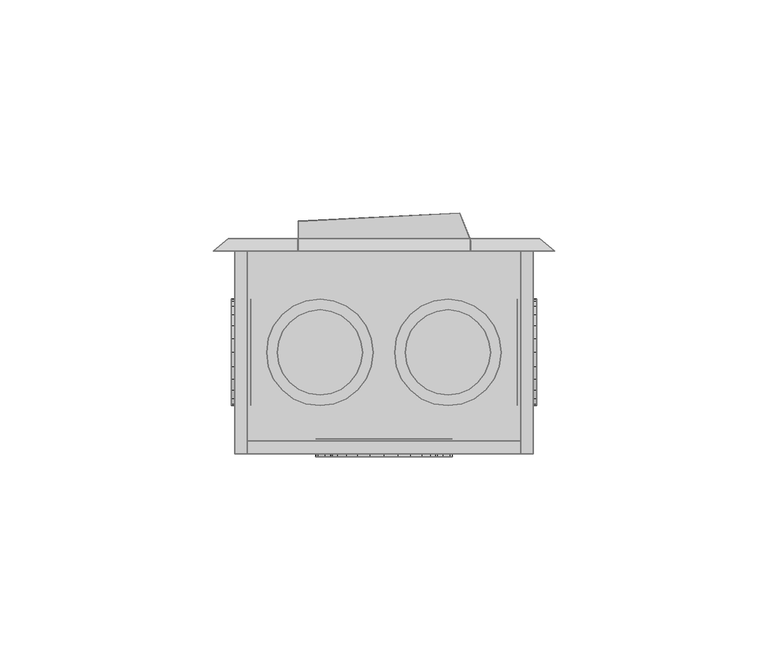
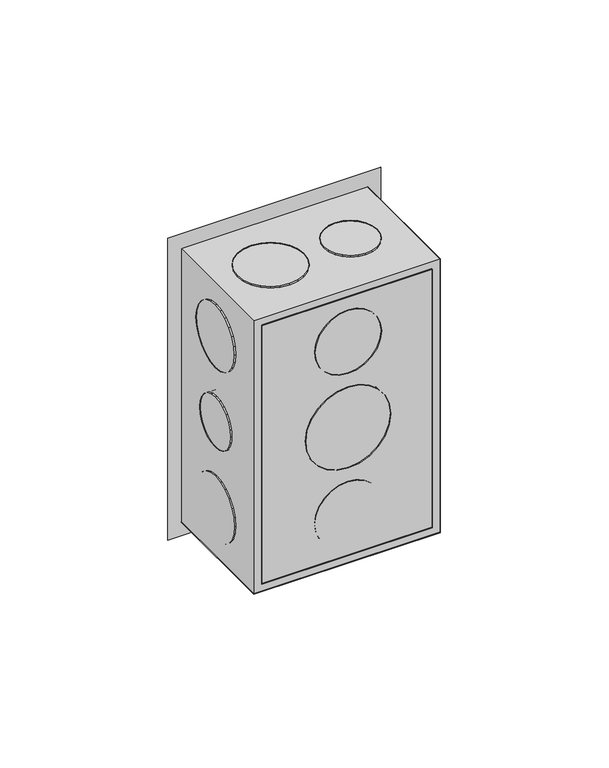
"""IFC4 building model written with IfcOpenShell, lengths in millimetres: proxy geometry,  210575 :  210575."""

from ifc_helpers import new_model, si_unit, origin, place, context, project, spatial, triangles, source, transform, mapped, element, save


def generic_models_0b062a14(model_context):
    return source(origin(), model_context, "Body", "Tessellation", [
        triangles([(15193.0005432, 15395.4998108, 1254.3000378), (15196.0003601, 15395.4998108, 1148.7000154), (15193.0005432, 15395.4998108, 1145.6999805), (15196.0003601, 15395.4998108, 1251.2999302), (15262.9997589, 15395.4998108, 1254.3000378), (15259.999942, 15395.4998108, 1251.2999302), (15262.9997589, 15395.4998108, 1145.6999805), (15259.999942, 15395.4998108, 1148.7000154), (15196.0003601, 15348.0003845, 1251.2999302), (15196.0003601, 15348.0003845, 1148.7000154), (15262.9997589, 15348.0003845, 1254.3000378), (15262.9997589, 15348.0003845, 1145.6999805), (15259.999942, 15348.0003845, 1251.2999302), (15193.0005432, 15348.0003845, 1145.6999805), (15259.999942, 15348.0003845, 1148.7000154), (15193.0005432, 15348.0003845, 1254.3000378), (15196.0003601, 15351.0002014, 1251.2999302), (15259.999942, 15351.0002014, 1148.7000154), (15196.0003601, 15351.0002014, 1148.7000154), (15259.999942, 15351.0002014, 1251.2999302), (15214.1004181, 15351.5001709, 1191.9999887), (15220.000058, 15351.5001709, 1186.0999855), (15216.7002594, 15351.5001709, 1188.6999722), (15212.5005157, 15351.5001709, 1195.8999687), (15223.799826, 15351.5001709, 1184.5000105), (15212.0005463, 15351.5001709, 1200.0000092), (15227.9995697, 15351.5001709, 1183.9999683), (15212.5005157, 15351.5001709, 1204.0999769), (15232.1004822, 15351.5001709, 1184.5000105), (15214.1004181, 15351.5001709, 1208.0000296), (15236.0002441, 15351.5001709, 1186.0999855), (15216.7002594, 15351.5001709, 1211.2999735), (15239.3000427, 15351.5001709, 1188.6999722), (15220.000058, 15351.5001709, 1213.9000328), (15241.7998901, 15351.5001709, 1191.9999887), (15223.799826, 15351.5001709, 1215.5000078), (15243.3997925, 15351.5001709, 1195.8999687), (15227.9995697, 15351.5001709, 1215.9999773), (15243.9997559, 15351.5001709, 1200.0000092), (15232.1004822, 15351.5001709, 1215.5000078), (15243.3997925, 15351.5001709, 1204.0999769), (15236.0002441, 15351.5001709, 1213.9000328), (15241.7998901, 15351.5001709, 1208.0000296), (15239.3000427, 15351.5001709, 1211.2999735), (15232.1004822, 15347.3004272, 1184.5000105), (15227.9995697, 15347.3004272, 1183.9999683), (15223.799826, 15347.3004272, 1184.5000105), (15220.000058, 15347.3004272, 1186.0999855), (15216.7002594, 15347.3004272, 1188.6999722), (15214.1004181, 15347.3004272, 1191.9999887), (15212.5005157, 15347.3004272, 1195.8999687), (15212.0005463, 15347.3004272, 1200.0000092), (15212.5005157, 15347.3004272, 1204.0999769), (15214.1004181, 15347.3004272, 1208.0000296), (15216.7002594, 15347.3004272, 1211.2999735), (15220.000058, 15347.3004272, 1213.9000328), (15223.799826, 15347.3004272, 1215.5000078), (15227.9995697, 15347.3004272, 1215.9999773), (15232.1004822, 15347.3004272, 1215.5000078), (15236.0002441, 15347.3004272, 1213.9000328), (15239.3000427, 15347.3004272, 1211.2999735), (15241.7998901, 15347.3004272, 1208.0000296), (15243.3997925, 15347.3004272, 1204.0999769), (15243.9997559, 15347.3004272, 1200.0000092), (15243.3997925, 15347.3004272, 1195.8999687), (15241.7998901, 15347.3004272, 1191.9999887), (15239.3000427, 15347.3004272, 1188.6999722), (15236.0002441, 15347.3004272, 1186.0999855), (15217.100235, 15351.5001709, 1227.8000565), (15221.6999542, 15351.5001709, 1223.2000465), (15219.1001129, 15351.5001709, 1225.2000698), (15215.9003082, 15351.5001709, 1230.8000187), (15224.6997711, 15351.5001709, 1221.8999805), (15215.5003326, 15351.5001709, 1233.9999687), (15227.9995697, 15351.5001709, 1221.500005), (15215.9003082, 15351.5001709, 1237.2000641), (15231.2005371, 15351.5001709, 1221.8999805), (15217.100235, 15351.5001709, 1240.3000202), (15234.200354, 15351.5001709, 1223.2000465), (15219.1001129, 15351.5001709, 1242.800013), (15236.8001953, 15351.5001709, 1225.2000698), (15238.8000732, 15351.5001709, 1227.8000565), (15221.6999542, 15351.5001709, 1244.8000362), (15224.6997711, 15351.5001709, 1246.0999569), (15240.0, 15351.5001709, 1230.8000187), (15227.9995697, 15351.5001709, 1246.4999325), (15240.4999695, 15351.5001709, 1233.9999687), (15231.2005371, 15351.5001709, 1246.0999569), (15240.0, 15351.5001709, 1237.2000641), (15238.8000732, 15351.5001709, 1240.3000202), (15234.200354, 15351.5001709, 1244.8000362), (15236.8001953, 15351.5001709, 1242.800013), (15240.0, 15347.3004272, 1230.8000187), (15238.8000732, 15347.3004272, 1227.8000565), (15236.8001953, 15347.3004272, 1225.2000698), (15234.200354, 15347.3004272, 1223.2000465), (15231.2005371, 15347.3004272, 1221.8999805), (15227.9995697, 15347.3004272, 1221.500005), (15224.6997711, 15347.3004272, 1221.8999805), (15221.6999542, 15347.3004272, 1223.2000465), (15219.1001129, 15347.3004272, 1225.2000698), (15217.100235, 15347.3004272, 1227.8000565), (15215.9003082, 15347.3004272, 1230.8000187), (15215.5003326, 15347.3004272, 1233.9999687), (15215.9003082, 15347.3004272, 1237.2000641), (15217.100235, 15347.3004272, 1240.3000202), (15219.1001129, 15347.3004272, 1242.800013), (15221.6999542, 15347.3004272, 1244.8000362), (15224.6997711, 15347.3004272, 1246.0999569), (15227.9995697, 15347.3004272, 1246.4999325), (15231.2005371, 15347.3004272, 1246.0999569), (15234.200354, 15347.3004272, 1244.8000362), (15236.8001953, 15347.3004272, 1242.800013), (15238.8000732, 15347.3004272, 1240.3000202), (15240.0, 15347.3004272, 1237.2000641), (15240.4999695, 15347.3004272, 1233.9999687), (15221.6999542, 15347.3004272, 1155.1999821), (15217.100235, 15347.3004272, 1159.6999981), (15219.1001129, 15347.3004272, 1157.2000053), (15224.6997711, 15347.3004272, 1153.8999887), (15215.9003082, 15347.3004272, 1162.8000269), (15227.9995697, 15347.3004272, 1153.5000132), (15215.5003326, 15347.3004272, 1165.9999769), (15231.2005371, 15347.3004272, 1153.8999887), (15215.9003082, 15347.3004272, 1169.1999996), (15234.200354, 15347.3004272, 1155.1999821), (15217.100235, 15347.3004272, 1172.2000345), (15236.8001953, 15347.3004272, 1157.2000053), (15219.1001129, 15347.3004272, 1174.8000212), (15238.8000732, 15347.3004272, 1159.6999981), (15221.6999542, 15347.3004272, 1176.7999718), (15240.0, 15347.3004272, 1162.8000269), (15224.6997711, 15347.3004272, 1178.0999651), (15227.9995697, 15347.3004272, 1178.5000134), (15240.4999695, 15347.3004272, 1165.9999769), (15240.0, 15347.3004272, 1169.1999996), (15231.2005371, 15347.3004272, 1178.0999651), (15238.8000732, 15347.3004272, 1172.2000345), (15234.200354, 15347.3004272, 1176.7999718), (15236.8001953, 15347.3004272, 1174.8000212), (15224.6997711, 15351.5001709, 1178.0999651), (15227.9995697, 15351.5001709, 1178.5000134), (15221.6999542, 15351.5001709, 1176.7999718), (15219.1001129, 15351.5001709, 1174.8000212), (15217.100235, 15351.5001709, 1172.2000345), (15215.9003082, 15351.5001709, 1169.1999996), (15215.5003326, 15351.5001709, 1165.9999769), (15215.9003082, 15351.5001709, 1162.8000269), (15217.100235, 15351.5001709, 1159.6999981), (15219.1001129, 15351.5001709, 1157.2000053), (15221.6999542, 15351.5001709, 1155.1999821), (15224.6997711, 15351.5001709, 1153.8999887), (15227.9995697, 15351.5001709, 1153.5000132), (15231.2005371, 15351.5001709, 1153.8999887), (15234.200354, 15351.5001709, 1155.1999821), (15236.8001953, 15351.5001709, 1157.2000053), (15238.8000732, 15351.5001709, 1159.6999981), (15240.0, 15351.5001709, 1162.8000269), (15240.4999695, 15351.5001709, 1165.9999769), (15240.0, 15351.5001709, 1169.1999996), (15238.8000732, 15351.5001709, 1172.2000345), (15236.8001953, 15351.5001709, 1174.8000212), (15234.200354, 15351.5001709, 1176.7999718), (15231.2005371, 15351.5001709, 1178.0999651), (15196.8003113, 15366.8003998, 1191.3000315), (15196.8003113, 15363.0994629, 1195.0000237), (15196.8003113, 15364.700528, 1192.9000065), (15196.8003113, 15362.0995239, 1197.4000225), (15196.8003113, 15369.2002533, 1190.3000198), (15196.8003113, 15361.7995422, 1200.0000092), (15196.8003113, 15371.8000946, 1189.9999655), (15196.8003113, 15374.299942, 1190.3000198), (15196.8003113, 15362.0995239, 1202.5999958), (15196.8003113, 15363.0994629, 1204.9999947), (15196.8003113, 15376.7997894, 1191.3000315), (15196.8003113, 15364.700528, 1207.1000118), (15196.8003113, 15378.7996674, 1192.9000065), (15196.8003113, 15380.3995697, 1195.0000237), (15196.8003113, 15366.8003998, 1208.6999868), (15196.8003113, 15381.3995087, 1197.4000225), (15196.8003113, 15369.2002533, 1209.6999985), (15196.8003113, 15381.7994843, 1200.0000092), (15196.8003113, 15371.8000946, 1209.9999802), (15196.8003113, 15381.3995087, 1202.5999958), (15196.8003113, 15374.299942, 1209.6999985), (15196.8003113, 15376.7997894, 1208.6999868), (15196.8003113, 15380.3995697, 1204.9999947), (15196.8003113, 15378.7996674, 1207.1000118), (15192.1994293, 15371.8000946, 1189.9999655), (15192.1994293, 15369.2002533, 1190.3000198), (15192.1994293, 15374.299942, 1190.3000198), (15192.1994293, 15376.7997894, 1191.3000315), (15192.1994293, 15378.7996674, 1192.9000065), (15192.1994293, 15380.3995697, 1195.0000237), (15192.1994293, 15381.3995087, 1197.4000225), (15192.1994293, 15381.7994843, 1200.0000092), (15192.1994293, 15381.3995087, 1202.5999958), (15192.1994293, 15380.3995697, 1204.9999947), (15192.1994293, 15378.7996674, 1207.1000118), (15192.1994293, 15376.7997894, 1208.6999868), (15192.1994293, 15374.299942, 1209.6999985), (15192.1994293, 15371.8000946, 1209.9999802), (15192.1994293, 15369.2002533, 1209.6999985), (15192.1994293, 15366.8003998, 1208.6999868), (15192.1994293, 15364.700528, 1207.1000118), (15192.1994293, 15363.0994629, 1204.9999947), (15192.1994293, 15362.0995239, 1202.5999958), (15192.1994293, 15361.7995422, 1200.0000092), (15192.1994293, 15362.0995239, 1197.4000225), (15192.1994293, 15363.0994629, 1195.0000237), (15192.1994293, 15364.700528, 1192.9000065), (15192.1994293, 15366.8003998, 1191.3000315), (15196.8003113, 15365.5004791, 1223.2000465), (15196.8003113, 15360.8995972, 1227.8000565), (15196.8003113, 15362.8994751, 1225.2000698), (15196.8003113, 15368.500296, 1221.8999805), (15196.8003113, 15359.6996704, 1230.8000187), (15196.8003113, 15359.2996948, 1233.9999687), (15196.8003113, 15371.8000946, 1221.500005), (15196.8003113, 15374.9998993, 1221.8999805), (15196.8003113, 15359.6996704, 1237.2000641), (15196.8003113, 15360.8995972, 1240.3000202), (15196.8003113, 15377.9997162, 1223.2000465), (15196.8003113, 15380.5995575, 1225.2000698), (15196.8003113, 15362.8994751, 1242.800013), (15196.8003113, 15382.5994354, 1227.8000565), (15196.8003113, 15365.5004791, 1244.8000362), (15196.8003113, 15383.8005249, 1230.8000187), (15196.8003113, 15368.500296, 1246.0999569), (15196.8003113, 15384.3004944, 1233.9999687), (15196.8003113, 15371.8000946, 1246.4999325), (15196.8003113, 15383.8005249, 1237.2000641), (15196.8003113, 15374.9998993, 1246.0999569), (15196.8003113, 15382.5994354, 1240.3000202), (15196.8003113, 15377.9997162, 1244.8000362), (15196.8003113, 15380.5995575, 1242.800013), (15192.1994293, 15371.8000946, 1221.500005), (15192.1994293, 15368.500296, 1221.8999805), (15192.1994293, 15374.9998993, 1221.8999805), (15192.1994293, 15377.9997162, 1223.2000465), (15192.1994293, 15380.5995575, 1225.2000698), (15192.1994293, 15382.5994354, 1227.8000565), (15192.1994293, 15383.8005249, 1230.8000187), (15192.1994293, 15384.3004944, 1233.9999687), (15192.1994293, 15383.8005249, 1237.2000641), (15192.1994293, 15382.5994354, 1240.3000202), (15192.1994293, 15380.5995575, 1242.800013), (15192.1994293, 15377.9997162, 1244.8000362), (15192.1994293, 15374.9998993, 1246.0999569), (15192.1994293, 15371.8000946, 1246.4999325), (15192.1994293, 15368.500296, 1246.0999569), (15192.1994293, 15365.5004791, 1244.8000362), (15192.1994293, 15362.8994751, 1242.800013), (15192.1994293, 15360.8995972, 1240.3000202), (15192.1994293, 15359.6996704, 1237.2000641), (15192.1994293, 15359.2996948, 1233.9999687), (15192.1994293, 15359.6996704, 1230.8000187), (15192.1994293, 15360.8995972, 1227.8000565), (15192.1994293, 15362.8994751, 1225.2000698), (15192.1994293, 15365.5004791, 1223.2000465), (15192.1994293, 15360.8995972, 1159.6999981), (15192.1994293, 15365.5004791, 1155.1999821), (15192.1994293, 15362.8994751, 1157.2000053), (15192.1994293, 15359.6996704, 1162.8000269), (15192.1994293, 15368.500296, 1153.8999887), (15192.1994293, 15359.2996948, 1165.9999769), (15192.1994293, 15371.8000946, 1153.5000132), (15192.1994293, 15359.6996704, 1169.1999996), (15192.1994293, 15374.9998993, 1153.8999887), (15192.1994293, 15360.8995972, 1172.2000345), (15192.1994293, 15377.9997162, 1155.1999821), (15192.1994293, 15362.8994751, 1174.8000212), (15192.1994293, 15380.5995575, 1157.2000053), (15192.1994293, 15365.5004791, 1176.7999718), (15192.1994293, 15382.5994354, 1159.6999981), (15192.1994293, 15368.500296, 1178.0999651), (15192.1994293, 15383.8005249, 1162.8000269), (15192.1994293, 15371.8000946, 1178.5000134), (15192.1994293, 15384.3004944, 1165.9999769), (15192.1994293, 15374.9998993, 1178.0999651), (15192.1994293, 15383.8005249, 1169.1999996), (15192.1994293, 15377.9997162, 1176.7999718), (15192.1994293, 15382.5994354, 1172.2000345), (15192.1994293, 15380.5995575, 1174.8000212), (15196.8003113, 15368.500296, 1178.0999651), (15196.8003113, 15371.8000946, 1178.5000134), (15196.8003113, 15374.9998993, 1178.0999651), (15196.8003113, 15377.9997162, 1176.7999718), (15196.8003113, 15380.5995575, 1174.8000212), (15196.8003113, 15382.5994354, 1172.2000345), (15196.8003113, 15383.8005249, 1169.1999996), (15196.8003113, 15384.3004944, 1165.9999769), (15196.8003113, 15383.8005249, 1162.8000269), (15196.8003113, 15382.5994354, 1159.6999981), (15196.8003113, 15380.5995575, 1157.2000053), (15196.8003113, 15377.9997162, 1155.1999821), (15196.8003113, 15374.9998993, 1153.8999887), (15196.8003113, 15371.8000946, 1153.5000132), (15196.8003113, 15368.500296, 1153.8999887), (15196.8003113, 15365.5004791, 1155.1999821), (15196.8003113, 15362.8994751, 1157.2000053), (15196.8003113, 15360.8995972, 1159.6999981), (15196.8003113, 15359.6996704, 1162.8000269), (15196.8003113, 15359.2996948, 1165.9999769), (15196.8003113, 15359.6996704, 1169.1999996), (15196.8003113, 15360.8995972, 1172.2000345), (15196.8003113, 15362.8994751, 1174.8000212), (15196.8003113, 15365.5004791, 1176.7999718), (15259.1999908, 15363.0994629, 1195.0000237), (15259.1999908, 15366.8003998, 1191.3000315), (15259.1999908, 15364.700528, 1192.9000065), (15259.1999908, 15362.0995239, 1197.4000225), (15259.1999908, 15369.2002533, 1190.3000198), (15259.1999908, 15361.7995422, 1200.0000092), (15259.1999908, 15371.8000946, 1189.9999655), (15259.1999908, 15362.0995239, 1202.5999958), (15259.1999908, 15374.299942, 1190.3000198), (15259.1999908, 15363.0994629, 1204.9999947), (15259.1999908, 15376.7997894, 1191.3000315), (15259.1999908, 15364.700528, 1207.1000118), (15259.1999908, 15378.7996674, 1192.9000065), (15259.1999908, 15366.8003998, 1208.6999868), (15259.1999908, 15380.3995697, 1195.0000237), (15259.1999908, 15369.2002533, 1209.6999985), (15259.1999908, 15381.3995087, 1197.4000225), (15259.1999908, 15381.7994843, 1200.0000092), (15259.1999908, 15371.8000946, 1209.9999802), (15259.1999908, 15374.299942, 1209.6999985), (15259.1999908, 15381.3995087, 1202.5999958), (15259.1999908, 15376.7997894, 1208.6999868), (15259.1999908, 15380.3995697, 1204.9999947), (15259.1999908, 15378.7996674, 1207.1000118), (15263.7997101, 15369.2002533, 1209.6999985), (15263.7997101, 15371.8000946, 1209.9999802), (15263.7997101, 15374.299942, 1209.6999985), (15263.7997101, 15376.7997894, 1208.6999868), (15263.7997101, 15378.7996674, 1207.1000118), (15263.7997101, 15380.3995697, 1204.9999947), (15263.7997101, 15381.3995087, 1202.5999958), (15263.7997101, 15381.7994843, 1200.0000092), (15263.7997101, 15381.3995087, 1197.4000225), (15263.7997101, 15380.3995697, 1195.0000237), (15263.7997101, 15378.7996674, 1192.9000065), (15263.7997101, 15376.7997894, 1191.3000315), (15263.7997101, 15374.299942, 1190.3000198), (15263.7997101, 15371.8000946, 1189.9999655), (15263.7997101, 15369.2002533, 1190.3000198), (15263.7997101, 15366.8003998, 1191.3000315), (15263.7997101, 15364.700528, 1192.9000065), (15263.7997101, 15363.0994629, 1195.0000237), (15263.7997101, 15362.0995239, 1197.4000225), (15263.7997101, 15361.7995422, 1200.0000092), (15263.7997101, 15362.0995239, 1202.5999958), (15263.7997101, 15363.0994629, 1204.9999947), (15263.7997101, 15364.700528, 1207.1000118), (15263.7997101, 15366.8003998, 1208.6999868), (15259.1999908, 15360.8995972, 1159.6999981), (15259.1999908, 15365.5004791, 1155.1999821), (15259.1999908, 15362.8994751, 1157.2000053), (15259.1999908, 15359.6996704, 1162.8000269), (15259.1999908, 15368.500296, 1153.8999887), (15259.1999908, 15359.2996948, 1165.9999769), (15259.1999908, 15371.8000946, 1153.5000132), (15259.1999908, 15359.6996704, 1169.1999996), (15259.1999908, 15374.9998993, 1153.8999887), (15259.1999908, 15360.8995972, 1172.2000345), (15259.1999908, 15377.9997162, 1155.1999821), (15259.1999908, 15362.8994751, 1174.8000212), (15259.1999908, 15380.5995575, 1157.2000053), (15259.1999908, 15365.5004791, 1176.7999718), (15259.1999908, 15382.5994354, 1159.6999981), (15259.1999908, 15368.500296, 1178.0999651), (15259.1999908, 15383.8005249, 1162.8000269), (15259.1999908, 15371.8000946, 1178.5000134), (15259.1999908, 15384.3004944, 1165.9999769), (15259.1999908, 15374.9998993, 1178.0999651), (15259.1999908, 15383.8005249, 1169.1999996), (15259.1999908, 15377.9997162, 1176.7999718), (15259.1999908, 15382.5994354, 1172.2000345), (15259.1999908, 15380.5995575, 1174.8000212), (15263.7997101, 15368.500296, 1178.0999651), (15263.7997101, 15371.8000946, 1178.5000134), (15263.7997101, 15374.9998993, 1178.0999651), (15263.7997101, 15377.9997162, 1176.7999718), (15263.7997101, 15380.5995575, 1174.8000212), (15263.7997101, 15382.5994354, 1172.2000345), (15263.7997101, 15383.8005249, 1169.1999996), (15263.7997101, 15384.3004944, 1165.9999769), (15263.7997101, 15383.8005249, 1162.8000269), (15263.7997101, 15382.5994354, 1159.6999981), (15263.7997101, 15380.5995575, 1157.2000053), (15263.7997101, 15377.9997162, 1155.1999821), (15263.7997101, 15374.9998993, 1153.8999887), (15263.7997101, 15371.8000946, 1153.5000132), (15263.7997101, 15368.500296, 1153.8999887), (15263.7997101, 15365.5004791, 1155.1999821), (15263.7997101, 15362.8994751, 1157.2000053), (15263.7997101, 15360.8995972, 1159.6999981), (15263.7997101, 15359.6996704, 1162.8000269), (15263.7997101, 15359.2996948, 1165.9999769), (15263.7997101, 15359.6996704, 1169.1999996), (15263.7997101, 15360.8995972, 1172.2000345), (15263.7997101, 15362.8994751, 1174.8000212), (15263.7997101, 15365.5004791, 1176.7999718), (15263.7997101, 15365.5004791, 1223.2000465), (15263.7997101, 15360.8995972, 1227.8000565), (15263.7997101, 15362.8994751, 1225.2000698), (15263.7997101, 15368.500296, 1221.8999805), (15263.7997101, 15359.6996704, 1230.8000187), (15263.7997101, 15359.2996948, 1233.9999687), (15263.7997101, 15371.8000946, 1221.500005), (15263.7997101, 15374.9998993, 1221.8999805), (15263.7997101, 15359.6996704, 1237.2000641), (15263.7997101, 15360.8995972, 1240.3000202), (15263.7997101, 15377.9997162, 1223.2000465), (15263.7997101, 15380.5995575, 1225.2000698), (15263.7997101, 15362.8994751, 1242.800013), (15263.7997101, 15382.5994354, 1227.8000565), (15263.7997101, 15365.5004791, 1244.8000362), (15263.7997101, 15383.8005249, 1230.8000187), (15263.7997101, 15368.500296, 1246.0999569), (15263.7997101, 15384.3004944, 1233.9999687), (15263.7997101, 15371.8000946, 1246.4999325), (15263.7997101, 15383.8005249, 1237.2000641), (15263.7997101, 15374.9998993, 1246.0999569), (15263.7997101, 15382.5994354, 1240.3000202), (15263.7997101, 15377.9997162, 1244.8000362), (15263.7997101, 15380.5995575, 1242.800013), (15259.1999908, 15371.8000946, 1221.500005), (15259.1999908, 15368.500296, 1221.8999805), (15259.1999908, 15374.9998993, 1221.8999805), (15259.1999908, 15377.9997162, 1223.2000465), (15259.1999908, 15380.5995575, 1225.2000698), (15259.1999908, 15382.5994354, 1227.8000565), (15259.1999908, 15383.8005249, 1230.8000187), (15259.1999908, 15384.3004944, 1233.9999687), (15259.1999908, 15383.8005249, 1237.2000641), (15259.1999908, 15382.5994354, 1240.3000202), (15259.1999908, 15380.5995575, 1242.800013), (15259.1999908, 15377.9997162, 1244.8000362), (15259.1999908, 15374.9998993, 1246.0999569), (15259.1999908, 15371.8000946, 1246.4999325), (15259.1999908, 15368.500296, 1246.0999569), (15259.1999908, 15365.5004791, 1244.8000362), (15259.1999908, 15362.8994751, 1242.800013), (15259.1999908, 15360.8995972, 1240.3000202), (15259.1999908, 15359.6996704, 1237.2000641), (15259.1999908, 15359.2996948, 1233.9999687), (15259.1999908, 15359.6996704, 1230.8000187), (15259.1999908, 15360.8995972, 1227.8000565), (15259.1999908, 15362.8994751, 1225.2000698), (15259.1999908, 15365.5004791, 1223.2000465), (15202.0999878, 15365.5004791, 1250.9999485), (15206.699707, 15360.8995972, 1250.9999485), (15204.0998657, 15362.8994751, 1250.9999485), (15200.900061, 15368.500296, 1250.9999485), (15209.6995239, 15359.6996704, 1250.9999485), (15213.0004852, 15359.2996948, 1250.9999485), (15200.5000854, 15371.8000946, 1250.9999485), (15200.900061, 15374.9998993, 1250.9999485), (15216.2002899, 15359.6996704, 1250.9999485), (15219.2001068, 15360.8995972, 1250.9999485), (15202.0999878, 15377.9997162, 1250.9999485), (15204.0998657, 15380.5995575, 1250.9999485), (15221.7999481, 15362.8994751, 1250.9999485), (15223.799826, 15365.5004791, 1250.9999485), (15206.699707, 15382.5994354, 1250.9999485), (15209.6995239, 15383.8005249, 1250.9999485), (15224.9997528, 15368.500296, 1250.9999485), (15213.0004852, 15384.3004944, 1250.9999485), (15225.4997223, 15371.8000946, 1250.9999485), (15216.2002899, 15383.8005249, 1250.9999485), (15224.9997528, 15374.9998993, 1250.9999485), (15223.799826, 15377.9997162, 1250.9999485), (15219.2001068, 15382.5994354, 1250.9999485), (15221.7999481, 15380.5995575, 1250.9999485), (15213.0004852, 15359.2996948, 1255.1999828), (15216.2002899, 15359.6996704, 1255.1999828), (15209.6995239, 15359.6996704, 1255.1999828), (15206.699707, 15360.8995972, 1255.1999828), (15204.0998657, 15362.8994751, 1255.1999828), (15202.0999878, 15365.5004791, 1255.1999828), (15200.900061, 15368.500296, 1255.1999828), (15200.5000854, 15371.8000946, 1255.1999828), (15200.900061, 15374.9998993, 1255.1999828), (15202.0999878, 15377.9997162, 1255.1999828), (15204.0998657, 15380.5995575, 1255.1999828), (15206.699707, 15382.5994354, 1255.1999828), (15209.6995239, 15383.8005249, 1255.1999828), (15213.0004852, 15384.3004944, 1255.1999828), (15216.2002899, 15383.8005249, 1255.1999828), (15219.2001068, 15382.5994354, 1255.1999828), (15221.7999481, 15380.5995575, 1255.1999828), (15223.799826, 15377.9997162, 1255.1999828), (15224.9997528, 15374.9998993, 1255.1999828), (15225.4997223, 15371.8000946, 1255.1999828), (15224.9997528, 15368.500296, 1255.1999828), (15223.799826, 15365.5004791, 1255.1999828), (15221.7999481, 15362.8994751, 1255.1999828), (15219.2001068, 15360.8995972, 1255.1999828), (15234.3003479, 15366.8003998, 1250.9999485), (15238.0001221, 15363.0994629, 1250.9999485), (15235.9002502, 15364.700528, 1250.9999485), (15240.3999756, 15362.0995239, 1250.9999485), (15233.3004089, 15369.2002533, 1250.9999485), (15242.9998169, 15361.7995422, 1250.9999485), (15233.0004272, 15371.8000946, 1250.9999485), (15233.3004089, 15374.299942, 1250.9999485), (15245.5996582, 15362.0995239, 1250.9999485), (15247.9995117, 15363.0994629, 1250.9999485), (15234.3003479, 15376.7997894, 1250.9999485), (15250.0005524, 15364.700528, 1250.9999485), (15235.9002502, 15378.7996674, 1250.9999485), (15238.0001221, 15380.3995697, 1250.9999485), (15251.6004547, 15366.8003998, 1250.9999485), (15252.6003937, 15369.2002533, 1250.9999485), (15240.3999756, 15381.3995087, 1250.9999485), (15242.9998169, 15381.7994843, 1250.9999485), (15253.0003693, 15371.8000946, 1250.9999485), (15245.5996582, 15381.3995087, 1250.9999485), (15252.6003937, 15374.299942, 1250.9999485), (15247.9995117, 15380.3995697, 1250.9999485), (15251.6004547, 15376.7997894, 1250.9999485), (15250.0005524, 15378.7996674, 1250.9999485), (15245.5996582, 15362.0995239, 1255.1999828), (15247.9995117, 15363.0994629, 1255.1999828), (15242.9998169, 15361.7995422, 1255.1999828), (15240.3999756, 15362.0995239, 1255.1999828), (15238.0001221, 15363.0994629, 1255.1999828), (15235.9002502, 15364.700528, 1255.1999828), (15234.3003479, 15366.8003998, 1255.1999828), (15233.3004089, 15369.2002533, 1255.1999828), (15233.0004272, 15371.8000946, 1255.1999828), (15233.3004089, 15374.299942, 1255.1999828), (15234.3003479, 15376.7997894, 1255.1999828), (15235.9002502, 15378.7996674, 1255.1999828), (15238.0001221, 15380.3995697, 1255.1999828), (15240.3999756, 15381.3995087, 1255.1999828), (15242.9998169, 15381.7994843, 1255.1999828), (15245.5996582, 15381.3995087, 1255.1999828), (15247.9995117, 15380.3995697, 1255.1999828), (15250.0005524, 15378.7996674, 1255.1999828), (15251.6004547, 15376.7997894, 1255.1999828), (15252.6003937, 15374.299942, 1255.1999828), (15253.0003693, 15371.8000946, 1255.1999828), (15252.6003937, 15369.2002533, 1255.1999828), (15251.6004547, 15366.8003998, 1255.1999828), (15250.0005524, 15364.700528, 1255.1999828), (15204.2998535, 15366.8003998, 1144.8000355), (15207.9996277, 15363.0994629, 1144.8000355), (15205.8997559, 15364.700528, 1144.8000355), (15210.3994812, 15362.0995239, 1144.8000355), (15203.2999146, 15369.2002533, 1144.8000355), (15213.0004852, 15361.7995422, 1144.8000355), (15202.9999329, 15371.8000946, 1144.8000355), (15203.2999146, 15374.299942, 1144.8000355), (15215.6003265, 15362.0995239, 1144.8000355), (15218.0001801, 15363.0994629, 1144.8000355), (15204.2998535, 15376.7997894, 1144.8000355), (15220.000058, 15364.700528, 1144.8000355), (15205.8997559, 15378.7996674, 1144.8000355), (15207.9996277, 15380.3995697, 1144.8000355), (15221.5999603, 15366.8003998, 1144.8000355), (15222.5998993, 15369.2002533, 1144.8000355), (15210.3994812, 15381.3995087, 1144.8000355), (15213.0004852, 15381.7994843, 1144.8000355), (15222.9998749, 15371.8000946, 1144.8000355), (15215.6003265, 15381.3995087, 1144.8000355), (15222.5998993, 15374.299942, 1144.8000355), (15218.0001801, 15380.3995697, 1144.8000355), (15221.5999603, 15376.7997894, 1144.8000355), (15220.000058, 15378.7996674, 1144.8000355), (15210.3994812, 15362.0995239, 1149.099991), (15213.0004852, 15361.7995422, 1149.099991), (15207.9996277, 15363.0994629, 1149.099991), (15205.8997559, 15364.700528, 1149.099991), (15204.2998535, 15366.8003998, 1149.099991), (15203.2999146, 15369.2002533, 1149.099991), (15202.9999329, 15371.8000946, 1149.099991), (15203.2999146, 15374.299942, 1149.099991), (15204.2998535, 15376.7997894, 1149.099991), (15205.8997559, 15378.7996674, 1149.099991), (15207.9996277, 15380.3995697, 1149.099991), (15210.3994812, 15381.3995087, 1149.099991), (15213.0004852, 15381.7994843, 1149.099991), (15215.6003265, 15381.3995087, 1149.099991), (15218.0001801, 15380.3995697, 1149.099991), (15220.000058, 15378.7996674, 1149.099991), (15221.5999603, 15376.7997894, 1149.099991), (15222.5998993, 15374.299942, 1149.099991), (15222.9998749, 15371.8000946, 1149.099991), (15222.5998993, 15369.2002533, 1149.099991), (15221.5999603, 15366.8003998, 1149.099991), (15220.000058, 15364.700528, 1149.099991), (15218.0001801, 15363.0994629, 1149.099991), (15215.6003265, 15362.0995239, 1149.099991), (15232.1004822, 15365.5004791, 1144.8000355), (15236.7002014, 15360.8995972, 1144.8000355), (15234.1003601, 15362.8994751, 1144.8000355), (15230.9005554, 15368.500296, 1144.8000355), (15239.7000183, 15359.6996704, 1144.8000355), (15242.9998169, 15359.2996948, 1144.8000355), (15230.5005798, 15371.8000946, 1144.8000355), (15230.9005554, 15374.9998993, 1144.8000355), (15246.1996216, 15359.6996704, 1144.8000355), (15249.1994385, 15360.8995972, 1144.8000355), (15232.1004822, 15377.9997162, 1144.8000355), (15234.1003601, 15380.5995575, 1144.8000355), (15251.8004425, 15362.8994751, 1144.8000355), (15253.8003204, 15365.5004791, 1144.8000355), (15236.7002014, 15382.5994354, 1144.8000355), (15239.7000183, 15383.8005249, 1144.8000355), (15255.0002472, 15368.500296, 1144.8000355), (15242.9998169, 15384.3004944, 1144.8000355), (15255.5002167, 15371.8000946, 1144.8000355), (15246.1996216, 15383.8005249, 1144.8000355), (15255.0002472, 15374.9998993, 1144.8000355), (15253.8003204, 15377.9997162, 1144.8000355), (15249.1994385, 15382.5994354, 1144.8000355), (15251.8004425, 15380.5995575, 1144.8000355), (15246.1996216, 15359.6996704, 1149.099991), (15249.1994385, 15360.8995972, 1149.099991), (15242.9998169, 15359.2996948, 1149.099991), (15239.7000183, 15359.6996704, 1149.099991), (15236.7002014, 15360.8995972, 1149.099991), (15234.1003601, 15362.8994751, 1149.099991), (15232.1004822, 15365.5004791, 1149.099991), (15230.9005554, 15368.500296, 1149.099991), (15230.5005798, 15371.8000946, 1149.099991), (15230.9005554, 15374.9998993, 1149.099991), (15232.1004822, 15377.9997162, 1149.099991), (15234.1003601, 15380.5995575, 1149.099991), (15236.7002014, 15382.5994354, 1149.099991), (15239.7000183, 15383.8005249, 1149.099991), (15242.9998169, 15384.3004944, 1149.099991), (15246.1996216, 15383.8005249, 1149.099991), (15249.1994385, 15382.5994354, 1149.099991), (15251.8004425, 15380.5995575, 1149.099991), (15253.8003204, 15377.9997162, 1149.099991), (15255.0002472, 15374.9998993, 1149.099991), (15255.5002167, 15371.8000946, 1149.099991), (15255.0002472, 15368.500296, 1149.099991), (15253.8003204, 15365.5004791, 1149.099991), (15251.8004425, 15362.8994751, 1149.099991), (15267.9994537, 15395.4998108, 1139.9999651), (15207.7996399, 15395.4998108, 1188.2999966), (15187.9996857, 15395.4998108, 1139.9999651), (15248.1994995, 15395.4998108, 1188.2999966), (15267.9994537, 15395.4998108, 1259.9999805), (15248.1994995, 15395.4998108, 1211.7000217), (15187.9996857, 15395.4998108, 1259.9999805), (15207.7996399, 15395.4998108, 1211.7000217), (15248.1994995, 15398.4996277, 1188.2999966), (15248.1994995, 15398.4996277, 1211.7000217), (15207.7996399, 15398.4996277, 1188.2999966), (15207.7996399, 15398.4996277, 1211.7000217), (15191.499472, 15398.4996277, 1143.4999695), (15191.499472, 15398.4996277, 1256.5000488), (15264.4996674, 15398.4996277, 1143.4999695), (15264.4996674, 15398.4996277, 1256.5000488), (15207.8996338, 15402.5005463, 1188.1000088), (15248.2994934, 15395.4998108, 1188.1000088), (15207.8996338, 15395.4998108, 1188.1000088), (15245.6996521, 15404.4004303, 1188.1000088), (15248.2994934, 15397.9996582, 1188.1000088), (15207.8996338, 15395.4998108, 1211.500034), (15248.2994934, 15395.4998108, 1211.500034), (15207.8996338, 15402.5005463, 1211.500034), (15245.6996521, 15404.4004303, 1211.500034), (15248.2994934, 15397.9996582, 1211.500034)], [[1, 2, 3], [2, 1, 4], [5, 4, 1], [4, 5, 6], [3, 2, 7], [7, 2, 8], [7, 8, 6], [7, 6, 5], [2, 9, 10], [9, 2, 4], [7, 11, 12], [11, 7, 5], [4, 13, 9], [13, 4, 6], [3, 12, 14], [12, 3, 7], [13, 8, 15], [8, 13, 6], [16, 3, 14], [3, 16, 1], [15, 2, 10], [2, 15, 8], [11, 1, 16], [1, 11, 5], [12, 10, 14], [10, 12, 15], [11, 15, 12], [15, 11, 13], [14, 10, 16], [16, 10, 9], [16, 9, 13], [16, 13, 11], [17, 18, 19], [18, 17, 20], [18, 13, 15], [13, 18, 20], [19, 15, 10], [15, 19, 18], [9, 19, 10], [19, 9, 17], [13, 17, 9], [17, 13, 20], [15, 9, 10], [9, 15, 13], [21, 22, 23], [22, 21, 24], [25, 22, 24], [25, 24, 26], [27, 25, 26], [27, 26, 28], [29, 27, 28], [29, 28, 30], [31, 29, 30], [31, 30, 32], [31, 32, 33], [33, 32, 34], [33, 34, 35], [35, 34, 36], [35, 36, 37], [37, 36, 38], [37, 38, 39], [39, 38, 40], [39, 40, 41], [41, 40, 42], [41, 42, 43], [43, 42, 44], [27, 45, 46], [45, 27, 29], [25, 46, 47], [46, 25, 27], [22, 47, 48], [47, 22, 25], [23, 48, 49], [48, 23, 22], [50, 23, 49], [23, 50, 21], [51, 21, 50], [21, 51, 24], [52, 24, 51], [24, 52, 26], [53, 26, 52], [26, 53, 28], [54, 28, 53], [28, 54, 30], [55, 30, 54], [30, 55, 32], [56, 32, 55], [32, 56, 34], [57, 34, 56], [34, 57, 36], [58, 36, 57], [36, 58, 38], [59, 38, 58], [38, 59, 40], [60, 40, 59], [40, 60, 42], [61, 42, 60], [42, 61, 44], [43, 61, 62], [61, 43, 44], [41, 62, 63], [62, 41, 43], [39, 63, 64], [63, 39, 41], [37, 64, 65], [64, 37, 39], [35, 65, 66], [65, 35, 37], [33, 66, 67], [66, 33, 35], [31, 67, 68], [67, 31, 33], [29, 68, 45], [68, 29, 31], [48, 50, 49], [50, 48, 47], [51, 50, 47], [51, 47, 46], [52, 51, 46], [52, 46, 45], [53, 52, 45], [53, 45, 68], [54, 53, 68], [54, 68, 67], [54, 67, 55], [55, 67, 66], [55, 66, 56], [56, 66, 65], [56, 65, 57], [57, 65, 64], [57, 64, 58], [58, 64, 63], [58, 63, 59], [59, 63, 62], [59, 62, 60], [60, 62, 61], [69, 70, 71], [70, 69, 72], [73, 70, 72], [73, 72, 74], [75, 73, 74], [75, 74, 76], [77, 75, 76], [77, 76, 78], [79, 77, 78], [79, 78, 80], [81, 79, 80], [81, 80, 82], [82, 80, 83], [82, 83, 84], [82, 84, 85], [85, 84, 86], [85, 86, 87], [87, 86, 88], [87, 88, 89], [89, 88, 90], [90, 88, 91], [90, 91, 92], [82, 93, 94], [93, 82, 85], [81, 94, 95], [94, 81, 82], [79, 95, 96], [95, 79, 81], [77, 96, 97], [96, 77, 79], [75, 97, 98], [97, 75, 77], [73, 98, 99], [98, 73, 75], [70, 99, 100], [99, 70, 73], [71, 100, 101], [100, 71, 70], [102, 71, 101], [71, 102, 69], [103, 69, 102], [69, 103, 72], [104, 72, 103], [72, 104, 74], [105, 74, 104], [74, 105, 76], [106, 76, 105], [76, 106, 78], [107, 78, 106], [78, 107, 80], [108, 80, 107], [80, 108, 83], [109, 83, 108], [83, 109, 84], [110, 84, 109], [84, 110, 86], [111, 86, 110], [86, 111, 88], [112, 88, 111], [88, 112, 91], [113, 91, 112], [91, 113, 92], [90, 113, 114], [113, 90, 92], [89, 114, 115], [114, 89, 90], [87, 115, 116], [115, 87, 89], [85, 116, 93], [116, 85, 87], [100, 102, 101], [102, 100, 99], [103, 102, 99], [103, 99, 98], [104, 103, 98], [104, 98, 97], [105, 104, 97], [106, 105, 97], [106, 97, 96], [106, 96, 95], [106, 95, 107], [107, 95, 94], [107, 94, 108], [108, 94, 93], [108, 93, 109], [109, 93, 116], [109, 116, 110], [110, 116, 115], [110, 115, 111], [111, 115, 114], [111, 114, 112], [112, 114, 113], [117, 118, 119], [118, 117, 120], [121, 118, 120], [121, 120, 122], [123, 121, 122], [123, 122, 124], [125, 123, 124], [125, 124, 126], [127, 125, 126], [127, 126, 128], [127, 128, 129], [129, 128, 130], [129, 130, 131], [131, 130, 132], [131, 132, 133], [133, 132, 134], [134, 132, 135], [134, 135, 136], [134, 136, 137], [137, 136, 138], [137, 138, 139], [139, 138, 140], [134, 141, 133], [141, 134, 142], [133, 143, 131], [143, 133, 141], [131, 144, 129], [144, 131, 143], [129, 145, 127], [145, 129, 144], [127, 146, 125], [146, 127, 145], [125, 147, 123], [147, 125, 146], [123, 148, 121], [148, 123, 147], [121, 149, 118], [149, 121, 148], [118, 150, 119], [150, 118, 149], [150, 117, 119], [117, 150, 151], [151, 120, 117], [120, 151, 152], [152, 122, 120], [122, 152, 153], [153, 124, 122], [124, 153, 154], [154, 126, 124], [126, 154, 155], [155, 128, 126], [128, 155, 156], [156, 130, 128], [130, 156, 157], [157, 132, 130], [132, 157, 158], [158, 135, 132], [135, 158, 159], [159, 136, 135], [136, 159, 160], [160, 138, 136], [138, 160, 161], [161, 140, 138], [140, 161, 162], [140, 163, 139], [163, 140, 162], [139, 164, 137], [164, 139, 163], [137, 142, 134], [142, 137, 164], [149, 151, 150], [151, 149, 148], [152, 151, 148], [153, 152, 148], [153, 148, 147], [153, 147, 146], [154, 153, 146], [154, 146, 145], [155, 154, 145], [155, 145, 144], [156, 155, 144], [156, 144, 157], [157, 144, 143], [157, 143, 141], [157, 141, 158], [158, 141, 142], [158, 142, 159], [159, 142, 164], [159, 164, 160], [160, 164, 163], [160, 163, 161], [161, 163, 162], [165, 166, 167], [168, 166, 165], [168, 165, 169], [170, 168, 169], [170, 169, 171], [170, 171, 172], [173, 170, 172], [174, 173, 172], [174, 172, 175], [176, 174, 175], [176, 175, 177], [176, 177, 178], [176, 178, 179], [179, 178, 180], [179, 180, 181], [181, 180, 182], [181, 182, 183], [183, 182, 184], [183, 184, 185], [185, 184, 186], [186, 184, 187], [186, 187, 188], [189, 169, 190], [169, 189, 171], [191, 171, 189], [171, 191, 172], [192, 172, 191], [172, 192, 175], [193, 175, 192], [175, 193, 177], [194, 177, 193], [177, 194, 178], [195, 178, 194], [178, 195, 180], [196, 180, 195], [180, 196, 182], [197, 182, 196], [182, 197, 184], [198, 184, 197], [184, 198, 187], [199, 187, 198], [187, 199, 188], [186, 199, 200], [199, 186, 188], [185, 200, 201], [200, 185, 186], [183, 201, 202], [201, 183, 185], [181, 202, 203], [202, 181, 183], [179, 203, 204], [203, 179, 181], [176, 204, 205], [204, 176, 179], [174, 205, 206], [205, 174, 176], [173, 206, 207], [206, 173, 174], [170, 207, 208], [207, 170, 173], [168, 208, 209], [208, 168, 170], [166, 209, 210], [209, 166, 168], [167, 210, 211], [210, 167, 166], [212, 167, 211], [167, 212, 165], [190, 165, 212], [165, 190, 169], [210, 212, 211], [212, 210, 209], [190, 212, 209], [190, 209, 208], [189, 190, 208], [189, 208, 207], [191, 189, 207], [191, 207, 206], [192, 191, 206], [192, 206, 205], [192, 205, 193], [193, 205, 204], [193, 204, 194], [194, 204, 203], [194, 203, 195], [195, 203, 196], [196, 203, 202], [196, 202, 201], [196, 201, 197], [197, 201, 200], [197, 200, 198], [198, 200, 199], [213, 214, 215], [214, 213, 216], [217, 214, 216], [218, 217, 216], [218, 216, 219], [218, 219, 220], [221, 218, 220], [222, 221, 220], [222, 220, 223], [222, 223, 224], [222, 224, 225], [225, 224, 226], [225, 226, 227], [227, 226, 228], [227, 228, 229], [229, 228, 230], [229, 230, 231], [231, 230, 232], [231, 232, 233], [233, 232, 234], [233, 234, 235], [235, 234, 236], [237, 216, 238], [216, 237, 219], [239, 219, 237], [219, 239, 220], [240, 220, 239], [220, 240, 223], [241, 223, 240], [223, 241, 224], [242, 224, 241], [224, 242, 226], [243, 226, 242], [226, 243, 228], [244, 228, 243], [228, 244, 230], [245, 230, 244], [230, 245, 232], [246, 232, 245], [232, 246, 234], [247, 234, 246], [234, 247, 236], [235, 247, 248], [247, 235, 236], [233, 248, 249], [248, 233, 235], [231, 249, 250], [249, 231, 233], [229, 250, 251], [250, 229, 231], [227, 251, 252], [251, 227, 229], [225, 252, 253], [252, 225, 227], [222, 253, 254], [253, 222, 225], [221, 254, 255], [254, 221, 222], [218, 255, 256], [255, 218, 221], [217, 256, 257], [256, 217, 218], [214, 257, 258], [257, 214, 217], [215, 258, 259], [258, 215, 214], [260, 215, 259], [215, 260, 213], [238, 213, 260], [213, 238, 216], [258, 260, 259], [260, 258, 257], [238, 260, 257], [238, 257, 256], [237, 238, 256], [237, 256, 255], [239, 237, 255], [239, 255, 254], [240, 239, 254], [240, 254, 253], [241, 240, 253], [241, 253, 252], [241, 252, 242], [242, 252, 251], [242, 251, 243], [243, 251, 244], [244, 251, 250], [244, 250, 249], [244, 249, 245], [245, 249, 246], [246, 249, 248], [246, 248, 247], [261, 262, 263], [262, 261, 264], [265, 262, 264], [265, 264, 266], [267, 265, 266], [267, 266, 268], [269, 267, 268], [269, 268, 270], [271, 269, 270], [271, 270, 272], [273, 271, 272], [273, 272, 274], [273, 274, 275], [275, 274, 276], [275, 276, 277], [277, 276, 278], [277, 278, 279], [279, 278, 280], [279, 280, 281], [281, 280, 282], [281, 282, 283], [283, 282, 284], [285, 278, 276], [278, 285, 286], [286, 280, 278], [280, 286, 287], [287, 282, 280], [282, 287, 288], [288, 284, 282], [284, 288, 289], [284, 290, 283], [290, 284, 289], [283, 291, 281], [291, 283, 290], [281, 292, 279], [292, 281, 291], [279, 293, 277], [293, 279, 292], [277, 294, 275], [294, 277, 293], [275, 295, 273], [295, 275, 294], [273, 296, 271], [296, 273, 295], [271, 297, 269], [297, 271, 296], [269, 298, 267], [298, 269, 297], [267, 299, 265], [299, 267, 298], [265, 300, 262], [300, 265, 299], [262, 301, 263], [301, 262, 300], [301, 261, 263], [261, 301, 302], [302, 264, 261], [264, 302, 303], [303, 266, 264], [266, 303, 304], [304, 268, 266], [268, 304, 305], [305, 270, 268], [270, 305, 306], [306, 272, 270], [272, 306, 307], [307, 274, 272], [274, 307, 308], [308, 276, 274], [276, 308, 285], [300, 302, 301], [302, 300, 299], [303, 302, 299], [303, 299, 298], [304, 303, 298], [304, 298, 297], [305, 304, 297], [305, 297, 296], [306, 305, 296], [306, 296, 295], [306, 295, 307], [307, 295, 294], [307, 294, 308], [308, 294, 293], [308, 293, 285], [285, 293, 286], [286, 293, 292], [286, 292, 291], [286, 291, 287], [287, 291, 288], [288, 291, 290], [288, 290, 289], [309, 310, 311], [310, 309, 312], [313, 310, 312], [313, 312, 314], [315, 313, 314], [315, 314, 316], [317, 315, 316], [317, 316, 318], [319, 317, 318], [319, 318, 320], [319, 320, 321], [321, 320, 322], [321, 322, 323], [323, 322, 324], [323, 324, 325], [325, 324, 326], [326, 324, 327], [326, 327, 328], [326, 328, 329], [329, 328, 330], [329, 330, 331], [331, 330, 332], [333, 327, 324], [327, 333, 334], [334, 328, 327], [328, 334, 335], [335, 330, 328], [330, 335, 336], [336, 332, 330], [332, 336, 337], [332, 338, 331], [338, 332, 337], [331, 339, 329], [339, 331, 338], [329, 340, 326], [340, 329, 339], [326, 341, 325], [341, 326, 340], [325, 342, 323], [342, 325, 341], [323, 343, 321], [343, 323, 342], [321, 344, 319], [344, 321, 343], [319, 345, 317], [345, 319, 344], [317, 346, 315], [346, 317, 345], [315, 347, 313], [347, 315, 346], [313, 348, 310], [348, 313, 347], [310, 349, 311], [349, 310, 348], [349, 309, 311], [309, 349, 350], [350, 312, 309], [312, 350, 351], [351, 314, 312], [314, 351, 352], [352, 316, 314], [316, 352, 353], [353, 318, 316], [318, 353, 354], [354, 320, 318], [320, 354, 355], [355, 322, 320], [322, 355, 356], [356, 324, 322], [324, 356, 333], [348, 350, 349], [351, 350, 348], [351, 348, 347], [352, 351, 347], [352, 347, 346], [352, 346, 345], [353, 352, 345], [354, 353, 345], [354, 345, 344], [355, 354, 344], [355, 344, 343], [355, 343, 342], [355, 342, 356], [356, 342, 341], [356, 341, 333], [333, 341, 340], [333, 340, 334], [334, 340, 339], [334, 339, 335], [335, 339, 336], [336, 339, 338], [336, 338, 337], [357, 358, 359], [358, 357, 360], [361, 358, 360], [361, 360, 362], [363, 361, 362], [363, 362, 364], [365, 363, 364], [365, 364, 366], [367, 365, 366], [367, 366, 368], [369, 367, 368], [369, 368, 370], [369, 370, 371], [371, 370, 372], [371, 372, 373], [373, 372, 374], [373, 374, 375], [375, 374, 376], [375, 376, 377], [377, 376, 378], [377, 378, 379], [379, 378, 380], [381, 374, 372], [374, 381, 382], [382, 376, 374], [376, 382, 383], [383, 378, 376], [378, 383, 384], [384, 380, 378], [380, 384, 385], [380, 386, 379], [386, 380, 385], [379, 387, 377], [387, 379, 386], [377, 388, 375], [388, 377, 387], [375, 389, 373], [389, 375, 388], [373, 390, 371], [390, 373, 389], [371, 391, 369], [391, 371, 390], [369, 392, 367], [392, 369, 391], [367, 393, 365], [393, 367, 392], [365, 394, 363], [394, 365, 393], [363, 395, 361], [395, 363, 394], [361, 396, 358], [396, 361, 395], [358, 397, 359], [397, 358, 396], [397, 357, 359], [357, 397, 398], [398, 360, 357], [360, 398, 399], [399, 362, 360], [362, 399, 400], [400, 364, 362], [364, 400, 401], [401, 366, 364], [366, 401, 402], [402, 368, 366], [368, 402, 403], [403, 370, 368], [370, 403, 404], [404, 372, 370], [372, 404, 381], [396, 398, 397], [398, 396, 395], [399, 398, 395], [399, 395, 394], [400, 399, 394], [400, 394, 393], [401, 400, 393], [401, 393, 392], [402, 401, 392], [402, 392, 391], [402, 391, 403], [403, 391, 390], [403, 390, 404], [404, 390, 389], [404, 389, 381], [381, 389, 382], [382, 389, 388], [382, 388, 387], [382, 387, 383], [383, 387, 384], [384, 387, 386], [384, 386, 385], [405, 406, 407], [406, 405, 408], [409, 406, 408], [410, 409, 408], [410, 408, 411], [410, 411, 412], [413, 410, 412], [414, 413, 412], [414, 412, 415], [414, 415, 416], [414, 416, 417], [417, 416, 418], [417, 418, 419], [419, 418, 420], [419, 420, 421], [421, 420, 422], [421, 422, 423], [423, 422, 424], [423, 424, 425], [425, 424, 426], [425, 426, 427], [427, 426, 428], [429, 408, 430], [408, 429, 411], [431, 411, 429], [411, 431, 412], [432, 412, 431], [412, 432, 415], [433, 415, 432], [415, 433, 416], [434, 416, 433], [416, 434, 418], [435, 418, 434], [418, 435, 420], [436, 420, 435], [420, 436, 422], [437, 422, 436], [422, 437, 424], [438, 424, 437], [424, 438, 426], [439, 426, 438], [426, 439, 428], [427, 439, 440], [439, 427, 428], [425, 440, 441], [440, 425, 427], [423, 441, 442], [441, 423, 425], [421, 442, 443], [442, 421, 423], [419, 443, 444], [443, 419, 421], [417, 444, 445], [444, 417, 419], [414, 445, 446], [445, 414, 417], [413, 446, 447], [446, 413, 414], [410, 447, 448], [447, 410, 413], [409, 448, 449], [448, 409, 410], [406, 449, 450], [449, 406, 409], [407, 450, 451], [450, 407, 406], [452, 407, 451], [407, 452, 405], [430, 405, 452], [405, 430, 408], [450, 452, 451], [452, 450, 449], [430, 452, 449], [430, 449, 448], [429, 430, 448], [429, 448, 447], [431, 429, 447], [431, 447, 446], [432, 431, 446], [432, 446, 445], [433, 432, 445], [433, 445, 444], [433, 444, 434], [434, 444, 443], [434, 443, 435], [435, 443, 436], [436, 443, 442], [436, 442, 441], [436, 441, 437], [437, 441, 438], [438, 441, 440], [438, 440, 439], [453, 454, 455], [454, 453, 456], [457, 454, 456], [458, 457, 456], [458, 456, 459], [458, 459, 460], [461, 458, 460], [462, 461, 460], [462, 460, 463], [462, 463, 464], [462, 464, 465], [465, 464, 466], [466, 464, 467], [466, 467, 468], [466, 468, 469], [469, 468, 470], [469, 470, 471], [471, 470, 472], [471, 472, 473], [473, 472, 474], [474, 472, 475], [474, 475, 476], [461, 477, 458], [477, 461, 478], [458, 479, 457], [479, 458, 477], [457, 480, 454], [480, 457, 479], [454, 481, 455], [481, 454, 480], [481, 453, 455], [453, 481, 482], [482, 456, 453], [456, 482, 483], [483, 459, 456], [459, 483, 484], [484, 460, 459], [460, 484, 485], [485, 463, 460], [463, 485, 486], [486, 464, 463], [464, 486, 487], [487, 467, 464], [467, 487, 488], [488, 468, 467], [468, 488, 489], [489, 470, 468], [470, 489, 490], [490, 472, 470], [472, 490, 491], [491, 475, 472], [475, 491, 492], [492, 476, 475], [476, 492, 493], [476, 494, 474], [494, 476, 493], [474, 495, 473], [495, 474, 494], [473, 496, 471], [496, 473, 495], [471, 497, 469], [497, 471, 496], [469, 498, 466], [498, 469, 497], [466, 499, 465], [499, 466, 498], [465, 500, 462], [500, 465, 499], [462, 478, 461], [478, 462, 500], [480, 482, 481], [483, 482, 480], [483, 480, 479], [483, 479, 477], [484, 483, 477], [485, 484, 477], [485, 477, 478], [485, 478, 500], [486, 485, 500], [487, 486, 500], [487, 500, 499], [487, 499, 498], [487, 498, 488], [488, 498, 489], [489, 498, 497], [489, 497, 490], [490, 497, 496], [490, 496, 491], [491, 496, 495], [491, 495, 494], [491, 494, 492], [492, 494, 493], [501, 502, 503], [504, 502, 501], [504, 501, 505], [506, 504, 505], [506, 505, 507], [506, 507, 508], [509, 506, 508], [510, 509, 508], [510, 508, 511], [512, 510, 511], [512, 511, 513], [512, 513, 514], [512, 514, 515], [515, 514, 516], [516, 514, 517], [516, 517, 518], [516, 518, 519], [519, 518, 520], [519, 520, 521], [521, 520, 522], [521, 522, 523], [523, 522, 524], [510, 525, 509], [525, 510, 526], [509, 527, 506], [527, 509, 525], [506, 528, 504], [528, 506, 527], [504, 529, 502], [529, 504, 528], [502, 530, 503], [530, 502, 529], [530, 501, 503], [501, 530, 531], [531, 505, 501], [505, 531, 532], [532, 507, 505], [507, 532, 533], [533, 508, 507], [508, 533, 534], [534, 511, 508], [511, 534, 535], [535, 513, 511], [513, 535, 536], [536, 514, 513], [514, 536, 537], [537, 517, 514], [517, 537, 538], [538, 518, 517], [518, 538, 539], [539, 520, 518], [520, 539, 540], [540, 522, 520], [522, 540, 541], [541, 524, 522], [524, 541, 542], [524, 543, 523], [543, 524, 542], [523, 544, 521], [544, 523, 543], [521, 545, 519], [545, 521, 544], [519, 546, 516], [546, 519, 545], [516, 547, 515], [547, 516, 546], [515, 548, 512], [548, 515, 547], [512, 526, 510], [526, 512, 548], [529, 531, 530], [531, 529, 528], [532, 531, 528], [532, 528, 527], [533, 532, 527], [534, 533, 527], [534, 527, 525], [534, 525, 526], [535, 534, 526], [535, 526, 548], [535, 548, 536], [536, 548, 537], [537, 548, 547], [537, 547, 546], [537, 546, 538], [538, 546, 539], [539, 546, 545], [539, 545, 540], [540, 545, 544], [540, 544, 541], [541, 544, 543], [541, 543, 542], [549, 550, 551], [552, 550, 549], [552, 549, 553], [554, 552, 553], [554, 553, 555], [554, 555, 556], [557, 554, 556], [558, 557, 556], [558, 556, 559], [560, 558, 559], [560, 559, 561], [560, 561, 562], [560, 562, 563], [563, 562, 564], [564, 562, 565], [564, 565, 566], [564, 566, 567], [567, 566, 568], [567, 568, 569], [569, 568, 570], [569, 570, 571], [571, 570, 572], [554, 573, 552], [573, 554, 574], [552, 575, 550], [575, 552, 573], [550, 576, 551], [576, 550, 575], [576, 549, 551], [549, 576, 577], [577, 553, 549], [553, 577, 578], [578, 555, 553], [555, 578, 579], [579, 556, 555], [556, 579, 580], [580, 559, 556], [559, 580, 581], [581, 561, 559], [561, 581, 582], [582, 562, 561], [562, 582, 583], [583, 565, 562], [565, 583, 584], [584, 566, 565], [566, 584, 585], [585, 568, 566], [568, 585, 586], [586, 570, 568], [570, 586, 587], [587, 572, 570], [572, 587, 588], [572, 589, 571], [589, 572, 588], [571, 590, 569], [590, 571, 589], [569, 591, 567], [591, 569, 590], [567, 592, 564], [592, 567, 591], [564, 593, 563], [593, 564, 592], [563, 594, 560], [594, 563, 593], [560, 595, 558], [595, 560, 594], [558, 596, 557], [596, 558, 595], [557, 574, 554], [574, 557, 596], [575, 577, 576], [577, 575, 573], [578, 577, 573], [578, 573, 574], [579, 578, 574], [580, 579, 574], [580, 574, 596], [580, 596, 595], [581, 580, 595], [581, 595, 594], [581, 594, 582], [582, 594, 583], [583, 594, 593], [583, 593, 592], [583, 592, 584], [584, 592, 585], [585, 592, 591], [585, 591, 586], [586, 591, 590], [586, 590, 587], [587, 590, 589], [587, 589, 588], [597, 598, 599], [598, 597, 600], [601, 598, 600], [602, 601, 600], [602, 600, 603], [602, 603, 604], [605, 602, 604], [606, 605, 604], [606, 604, 607], [606, 607, 608], [606, 608, 609], [609, 608, 610], [610, 608, 611], [610, 611, 612], [610, 612, 613], [613, 612, 614], [613, 614, 615], [615, 614, 616], [615, 616, 617], [617, 616, 618], [618, 616, 619], [618, 619, 620], [606, 621, 605], [621, 606, 622], [605, 623, 602], [623, 605, 621], [602, 624, 601], [624, 602, 623], [601, 625, 598], [625, 601, 624], [598, 626, 599], [626, 598, 625], [626, 597, 599], [597, 626, 627], [627, 600, 597], [600, 627, 628], [628, 603, 600], [603, 628, 629], [629, 604, 603], [604, 629, 630], [630, 607, 604], [607, 630, 631], [631, 608, 607], [608, 631, 632], [632, 611, 608], [611, 632, 633], [633, 612, 611], [612, 633, 634], [634, 614, 612], [614, 634, 635], [635, 616, 614], [616, 635, 636], [636, 619, 616], [619, 636, 637], [637, 620, 619], [620, 637, 638], [620, 639, 618], [639, 620, 638], [618, 640, 617], [640, 618, 639], [617, 641, 615], [641, 617, 640], [615, 642, 613], [642, 615, 641], [613, 643, 610], [643, 613, 642], [610, 644, 609], [644, 610, 643], [609, 622, 606], [622, 609, 644], [625, 627, 626], [628, 627, 625], [628, 625, 624], [628, 624, 623], [629, 628, 623], [630, 629, 623], [630, 623, 621], [630, 621, 622], [631, 630, 622], [632, 631, 622], [632, 622, 644], [632, 644, 643], [632, 643, 633], [633, 643, 634], [634, 643, 642], [634, 642, 635], [635, 642, 641], [635, 641, 636], [636, 641, 640], [636, 640, 639], [636, 639, 637], [637, 639, 638], [645, 646, 647], [646, 645, 648], [649, 648, 645], [648, 649, 650], [647, 646, 651], [651, 646, 652], [651, 652, 650], [651, 650, 649], [650, 653, 648], [653, 650, 654], [648, 655, 646], [655, 648, 653], [655, 652, 646], [652, 655, 656], [656, 650, 652], [650, 656, 654], [651, 657, 647], [657, 651, 658], [647, 657, 645], [645, 657, 659], [660, 645, 659], [645, 660, 649], [651, 660, 658], [649, 660, 651], [658, 655, 657], [655, 658, 656], [654, 656, 658], [654, 658, 660], [655, 659, 657], [659, 655, 653], [659, 653, 660], [660, 653, 654], [661, 662, 663], [662, 661, 664], [662, 664, 665], [662, 666, 663], [666, 662, 667], [666, 661, 663], [661, 666, 668], [668, 664, 661], [664, 668, 669], [664, 670, 665], [670, 664, 669], [665, 667, 662], [667, 665, 670], [667, 668, 666], [668, 667, 669], [669, 667, 670]], closed=False),
    ])


if __name__ == "__main__":
    model = new_model("IFC4")
    model_context = context("Model", 3, world=origin())
    ifc_project = project(units=[si_unit("LENGTHUNIT", "METRE", prefix="MILLI")], contexts=[model_context])
    site = spatial("IfcSite", under=ifc_project)
    building = spatial("IfcBuilding", under=site)
    placement = place(None, origin())
    generic_models_shape = generic_models_0b062a14(model_context)
    element("IfcBuildingElementProxy", 1, Name=" 210575 :  210575", ObjectType=" 210575 :  210575", at=placement, inside=building, context=model_context, shape_type="MappedRepresentation", body=[
        mapped(generic_models_shape, transform((0.0, 0.0, 0.0), x_axis=(1.0, 0.0, 0.0), y_axis=(0.0, 1.0, 0.0), z_axis=(0.0, 0.0, 1.0))),
    ])
    save(model, "model.ifc")
